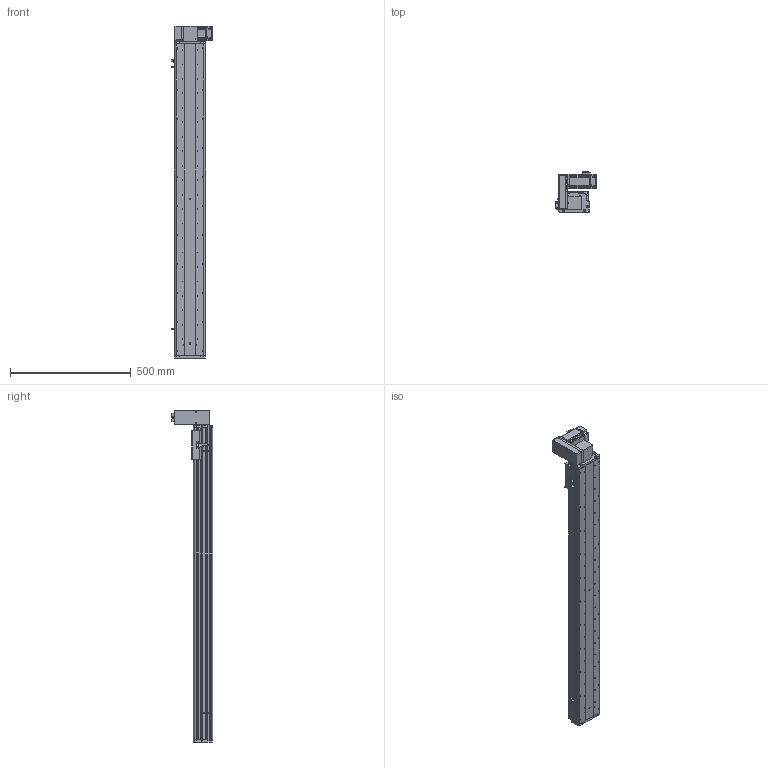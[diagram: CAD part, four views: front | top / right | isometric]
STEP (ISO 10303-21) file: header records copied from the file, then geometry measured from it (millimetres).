
FILE_DESCRIPTION (( 'STEP AP214' ), '1' );
FILE_NAME ('KSD125B-S1100-MRU-CM.STEP', '2017-10-21T07:42:12', ( '微软用户' ), ( '微软中国' ), 'SwSTEP 2.0', 'SolidWorks 2014', '' );
FILE_SCHEMA (( 'AUTOMOTIVE_DESIGN' ));
Length unit declared in the file: millimetre
Products named in the file (17): U倰嫖萇EEㄜSX672; KSD125模组同步带-防撞垫1; 100宽马达安装板同步带右; 前端板-125宽模组同步带; 125模组同步带-尾端板1; KSD125模组同步带-滑动座1; KSD125B-S1100-MRU-CM; 悵誘欶奻狟殏; HTPA30S3M150_A_H6_a佪裝蚚; HTPA30S3M150_A_H6_a萇儂蚚; 100宽马达安装板连板上下折丝杆同步带; KSD125模组1100行程同步带-防尘盖; 125模组1100行程同步带-底板; MHMD042G1CA_2_03; KSD125模组同步带-防撞垫2; 覜茼え68遵圉猾敕; U倰嫖萇假蚾璃
Assembly tree (20 placements, depth 2):
  KSD125B-S1100-MRU-CM
    KSD125模组同步带-滑动座1
    125模组同步带-尾端板1
    前端板-125宽模组同步带
    100宽马达安装板同步带右
    KSD125模组同步带-防撞垫1
    U倰嫖萇EEㄜSX672  x3
    U倰嫖萇假蚾璃  x3
    覜茼え68遵圉猾敕
    KSD125模组同步带-防撞垫2
    MHMD042G1CA_2_03
    125模组1100行程同步带-底板
    KSD125模组1100行程同步带-防尘盖
    100宽马达安装板连板上下折丝杆同步带
    HTPA30S3M150_A_H6_a萇儂蚚
    HTPA30S3M150_A_H6_a佪裝蚚
    悵誘欶奻狟殏
Bounding box: 168.7 x 170.5 x 1377 mm (x, y, z)
Volume: 4192860.2 mm3; surface area: 1404672 mm2
Topology: 19 solids, 22 shells, 2329 faces, 6751 edges, 4462 vertices
Faces by surface type: cylinder 1472, plane 730, cone 105, bspline 22
Entity records: 83093 total; most frequent: CARTESIAN_POINT 16377, DIRECTION 12912, ORIENTED_EDGE 12022, EDGE_CURVE 6089, AXIS2_PLACEMENT_3D 5001, VERTEX_POINT 4054, VECTOR 2910, LINE 2910
